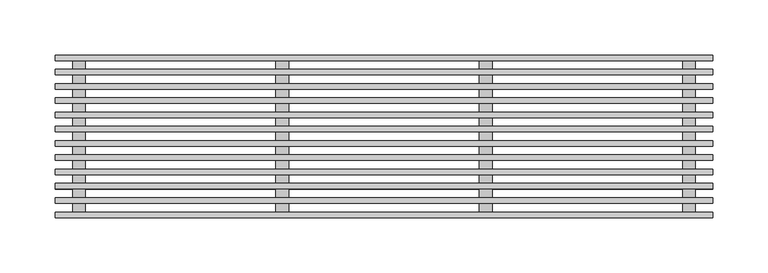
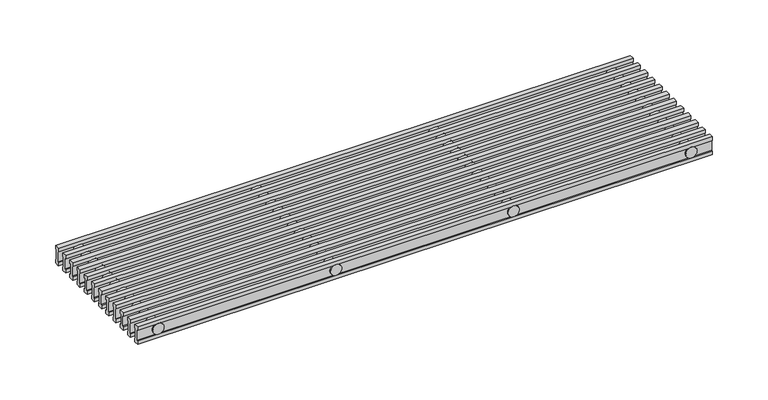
"""IFC4 building model written with IfcOpenShell, lengths in millimetres: proxy geometry, ♦ : РАП_Алюминиевая продольная/ Белый RAL 9016."""

import ifcopenshell
import ifcopenshell.guid

model = None  # the IFC model being written
_history = None  # IfcOwnerHistory: only IFC2X3 demands one
_inside = {}  # id of a spatial element -> (the spatial element, [elements in it])
_under = {}  # id of a project, library or spatial element -> (it, [spatial elements below it])
_declared = {}  # id of a project -> (the project, [libraries it declares])
_typed = {}  # id of a type object -> (the type object, [elements of that type])
_made_of = {}  # id of a material, layer set ... -> (it, [elements and type objects made of it])


def new_model(schema):
    """Start an empty IFC model of exactly this schema.

    Asked for "IFC4X3", IfcOpenShell would pick the latest addendum, in which some entities
    have other attributes; the version numbers below select the first issue.
    IFC2X3 requires an IfcOwnerHistory on every rooted entity: one is made here for all.
    """
    global model, _history
    if schema == "IFC4X3":
        model = ifcopenshell.file(schema_version=(4, 3, 0, 0))
    else:
        model = ifcopenshell.file(schema=schema)
    _inside.clear()
    _under.clear()
    _declared.clear()
    _typed.clear()
    _made_of.clear()
    _history = None
    if model.schema == "IFC2X3":
        org = make("IfcOrganization", Name="unknown")
        user = make(
            "IfcPersonAndOrganization",
            ThePerson=make("IfcPerson", FamilyName="unknown"),
            TheOrganization=org,
        )
        app = make(
            "IfcApplication",
            ApplicationDeveloper=org,
            Version="unknown",
            ApplicationFullName="unknown",
            ApplicationIdentifier="unknown",
        )
        _history = make(
            "IfcOwnerHistory",
            OwningUser=user,
            OwningApplication=app,
            ChangeAction="ADDED",
            CreationDate=0,
        )
    return model


def make(cls, **values):
    """One entity of the class cls with the attributes given. An attribute that is None is left unset."""
    return model.create_entity(
        cls, **{name: value for name, value in values.items() if value is not None}
    )


def rooted(cls, **values):
    """An entity with a GlobalId (a new one), such as an element, a storey or a relation."""
    return make(cls, GlobalId=ifcopenshell.guid.new(), OwnerHistory=_history, **values)


def si_unit(unit_type, name, prefix=None):
    """IfcSIUnit, for example si_unit("LENGTHUNIT", "METRE", prefix="MILLI")."""
    return make("IfcSIUnit", UnitType=unit_type, Prefix=prefix, Name=name)


def assignment(units):
    """IfcUnitAssignment: the units of a project."""
    return None if units is None else make("IfcUnitAssignment", Units=units)


def point(xyz):
    """IfcCartesianPoint."""
    return None if xyz is None else make("IfcCartesianPoint", Coordinates=xyz)


def direction(xyz):
    """IfcDirection."""
    return None if xyz is None else make("IfcDirection", DirectionRatios=xyz)


def frame(location, z_axis=None, x_axis=None):
    """IfcAxis2Placement3D, a coordinate frame: its origin and axes. An axis left out is left unset."""
    return make(
        "IfcAxis2Placement3D",
        Location=point(location),
        Axis=direction(z_axis),
        RefDirection=direction(x_axis),
    )


def frame_2d(location, x_axis=None):
    """IfcAxis2Placement2D, a coordinate frame in the plane: its origin and x axis."""
    return make(
        "IfcAxis2Placement2D", Location=point(location), RefDirection=direction(x_axis)
    )


def origin():
    """The frame at (0, 0, 0) with its axes left unset."""
    return frame((0.0, 0.0, 0.0))


def place(relative_to, where):
    """IfcLocalPlacement: puts the frame where relative to a parent placement (None: the world)."""
    return make(
        "IfcLocalPlacement", PlacementRelTo=relative_to, RelativePlacement=where
    )


def context(
    kind, dimensions, precision=None, world=None, true_north=None, identifier=None
):
    """IfcGeometricRepresentationContext, for example the 3D "Model" context."""
    return make(
        "IfcGeometricRepresentationContext",
        ContextIdentifier=identifier,
        ContextType=kind,
        CoordinateSpaceDimension=dimensions,
        Precision=precision,
        WorldCoordinateSystem=world,
        TrueNorth=true_north,
    )


def project(units=None, contexts=None):
    """IfcProject with its units and contexts."""
    return rooted(
        "IfcProject",
        Name="project",
        RepresentationContexts=contexts,
        UnitsInContext=assignment(units),
    )


def spatial(cls, under=None, at=None, **own):
    """A site, building, storey or space (cls), placed at a placement, below another one or the project."""
    s = rooted(cls, ObjectPlacement=at, **own)
    if under is not None:
        _under.setdefault(under.id(), (under, []))[1].append(s)
    return s


def polyline(points):
    """IfcPolyline through the points."""
    return make("IfcPolyline", Points=[point(p) for p in points])


def circle_curve(where, radius):
    """IfcCircle in the frame where."""
    return make("IfcCircle", Position=where, Radius=radius)


def trimmed(basis, trim1, trim2, sense, master):
    """IfcTrimmedCurve: the piece of a basis curve between two trims."""
    return make(
        "IfcTrimmedCurve",
        BasisCurve=basis,
        Trim1=trim1,
        Trim2=trim2,
        SenseAgreement=sense,
        MasterRepresentation=master,
    )


def segment(curve, same_sense, transition):
    """IfcCompositeCurveSegment."""
    return make(
        "IfcCompositeCurveSegment",
        Transition=transition,
        SameSense=same_sense,
        ParentCurve=curve,
    )


def composite_curve(segments, self_intersect=None):
    """IfcCompositeCurve: segments joined end to end."""
    return make("IfcCompositeCurve", Segments=segments, SelfIntersect=self_intersect)


def outline(outer, holes=None, kind="AREA"):
    """IfcArbitraryClosedProfileDef: a profile drawn as a closed curve; with holes, ...WithVoids."""
    if holes is None:
        return make("IfcArbitraryClosedProfileDef", ProfileType=kind, OuterCurve=outer)
    return make(
        "IfcArbitraryProfileDefWithVoids",
        ProfileType=kind,
        OuterCurve=outer,
        InnerCurves=holes,
    )


def extrude(swept, where, along, depth):
    """IfcExtrudedAreaSolid: the profile swept, set in the frame where, extruded along a direction by depth."""
    return make(
        "IfcExtrudedAreaSolid",
        SweptArea=swept,
        Position=where,
        ExtrudedDirection=direction(along),
        Depth=depth,
    )


def shape(context_of_items, identifier, shape_type, items):
    """IfcShapeRepresentation: the items that make up one representation, for example the "Body"."""
    return make(
        "IfcShapeRepresentation",
        ContextOfItems=context_of_items,
        RepresentationIdentifier=identifier,
        RepresentationType=shape_type,
        Items=items,
    )


def source(mapping_origin, context_of_items, identifier, shape_type, items):
    """IfcRepresentationMap: a shape defined once, which mapped items show again and again."""
    return make(
        "IfcRepresentationMap",
        MappingOrigin=mapping_origin,
        MappedRepresentation=shape(context_of_items, identifier, shape_type, items),
    )


def transform(
    local_origin,
    x_axis=None,
    y_axis=None,
    z_axis=None,
    scale=None,
    scale2=None,
    scale3=None,
    uniform=True,
):
    """IfcCartesianTransformationOperator3D, or its non-uniform kind. x_axis, y_axis, z_axis: its Axis1, 2, 3."""
    if uniform:
        return make(
            "IfcCartesianTransformationOperator3D",
            Axis1=direction(x_axis),
            Axis2=direction(y_axis),
            LocalOrigin=point(local_origin),
            Scale=scale,
            Axis3=direction(z_axis),
        )
    return make(
        "IfcCartesianTransformationOperator3DnonUniform",
        Axis1=direction(x_axis),
        Axis2=direction(y_axis),
        LocalOrigin=point(local_origin),
        Scale=scale,
        Axis3=direction(z_axis),
        Scale2=scale2,
        Scale3=scale3,
    )


def mapped(mapping_source, mapping_target):
    """IfcMappedItem: shows the shape of a source again, moved by a transform."""
    return make(
        "IfcMappedItem", MappingSource=mapping_source, MappingTarget=mapping_target
    )


def made_of(thing, what):
    """Note that an element or type object is made of a material, layer set ...; save() writes the relation."""
    if what is not None:
        _made_of.setdefault(what.id(), (what, []))[1].append(thing)
    return thing


def element(
    cls,
    number,
    at=None,
    inside=None,
    cuts=None,
    type_object=None,
    material=None,
    context=None,
    identifier="Body",
    shape_type=None,
    held_by="IfcProductDefinitionShape",
    body=None,
    shapes=None,
    **own,
):
    """One element of the class cls, such as IfcWall. Its Tag is "e" and its number.

    at: its placement. inside: the storey or other place that contains it. cuts: it is an
    opening in that element (IfcRelVoidsElement). A single representation is given by context,
    identifier, shape_type and body (its items); several are given by shapes. held_by: the class
    of the entity that holds the representations. save() writes the other relations.
    """
    e = rooted(cls, Tag="e%d" % number, ObjectPlacement=at, **own)
    if body is not None:
        shapes = [shape(context, identifier, shape_type, body)]
    if shapes is not None:
        e.Representation = make(held_by, Representations=shapes)
    if inside is not None:
        _inside.setdefault(inside.id(), (inside, []))[1].append(e)
    if cuts is not None:
        rooted(
            "IfcRelVoidsElement", RelatingBuildingElement=cuts, RelatedOpeningElement=e
        )
    if type_object is not None:
        _typed.setdefault(type_object.id(), (type_object, []))[1].append(e)
    return made_of(e, material)


def aggregate(whole, parts):
    """IfcRelAggregates: a whole, such as a stair, and the parts it consists of."""
    return rooted("IfcRelAggregates", RelatingObject=whole, RelatedObjects=parts)


def save(model, path):
    """Write the relations noted so far, then the file.

    IfcRelAggregates (storeys below a building ...), IfcRelContainedInSpatialStructure (elements
    in a storey), IfcRelDefinesByType, IfcRelAssociatesMaterial and IfcRelDeclares: one each for
    every whole, place, type object, material and project.
    """
    for whole, parts in _under.values():
        aggregate(whole, parts)
    for where, things in _inside.values():
        rooted(
            "IfcRelContainedInSpatialStructure",
            RelatedElements=things,
            RelatingStructure=where,
        )
    for kind, things in _typed.values():
        rooted("IfcRelDefinesByType", RelatedObjects=things, RelatingType=kind)
    for what, things in _made_of.values():
        rooted("IfcRelAssociatesMaterial", RelatedObjects=things, RelatingMaterial=what)
    for by, libraries in _declared.values():
        rooted("IfcRelDeclares", RelatingContext=by, RelatedDefinitions=libraries)
    model.write(path)


def mechanical_equipment_2d79d91e(model_context):
    return source(origin(), model_context, "Body", "SweptSolid", [
        extrude(outline(polyline([(-55.8363636, 0.0), (-55.8363636, -3.86), (-57.0863636, -3.86), (-57.0863636, -15.44), (-55.8363636, -15.44), (-55.8363636, -19.3), (-60.8363636, -19.3), (-60.8363636, -15.44), (-59.5863636, -15.44), (-59.5863636, -3.86), (-60.8363636, -3.86), (-60.8363636, 0.0), (-55.8363636, 0.0)])), frame((1.2, 0.0, 0.0), z_axis=(1.0, 0.0, 0.0), x_axis=(0.0, 1.0, 0.0)), (0.0, 0.0, 1.0), 597.6),
        extrude(outline(polyline([(-42.8727273, 0.0), (-42.8727273, -3.86), (-44.1227273, -3.86), (-44.1227273, -15.44), (-42.8727273, -15.44), (-42.8727273, -19.3), (-47.8727273, -19.3), (-47.8727273, -15.44), (-46.6227273, -15.44), (-46.6227273, -3.86), (-47.8727273, -3.86), (-47.8727273, 0.0), (-42.8727273, 0.0)])), frame((1.2, 0.0, 0.0), z_axis=(1.0, 0.0, 0.0), x_axis=(0.0, 1.0, 0.0)), (0.0, 0.0, 1.0), 597.6),
        extrude(outline(polyline([(-29.9090909, 0.0), (-29.9090909, -3.86), (-31.1590909, -3.86), (-31.1590909, -15.44), (-29.9090909, -15.44), (-29.9090909, -19.3), (-34.9090909, -19.3), (-34.9090909, -15.44), (-33.6590909, -15.44), (-33.6590909, -3.86), (-34.9090909, -3.86), (-34.9090909, 0.0), (-29.9090909, 0.0)])), frame((1.2, 0.0, 0.0), z_axis=(1.0, 0.0, 0.0), x_axis=(0.0, 1.0, 0.0)), (0.0, 0.0, 1.0), 597.6),
        extrude(outline(polyline([(-16.9454545, 0.0), (-16.9454545, -3.86), (-18.1954545, -3.86), (-18.1954545, -15.44), (-16.9454545, -15.44), (-16.9454545, -19.3), (-21.9454545, -19.3), (-21.9454545, -15.44), (-20.6954545, -15.44), (-20.6954545, -3.86), (-21.9454545, -3.86), (-21.9454545, 0.0), (-16.9454545, 0.0)])), frame((1.2, 0.0, 0.0), z_axis=(1.0, 0.0, 0.0), x_axis=(0.0, 1.0, 0.0)), (0.0, 0.0, 1.0), 597.6),
        extrude(outline(composite_curve([segment(trimmed(circle_curve(frame_2d((-9.6, 392.3333333)), 5.8), [point((-9.6, 386.5333333))], [point((-9.6, 398.1333333))], False, "CARTESIAN"), True, "CONTINUOUS"), segment(trimmed(circle_curve(frame_2d((-9.6, 392.3333333)), 5.8), [point((-9.6, 398.1333333))], [point((-9.6, 386.5333333))], False, "CARTESIAN"), True, "CONTINUOUS")], self_intersect=False)), frame((0.0, -73.8, 0.0), z_axis=(0.0, 1.0, 0.0), x_axis=(0.0, 0.0, 1.0)), (0.0, 0.0, 1.0), 147.6),
        extrude(outline(composite_curve([segment(trimmed(circle_curve(frame_2d((-9.6, 207.6666667)), 5.8), [point((-9.6, 201.8666667))], [point((-9.6, 213.4666667))], False, "CARTESIAN"), True, "CONTINUOUS"), segment(trimmed(circle_curve(frame_2d((-9.6, 207.6666667)), 5.8), [point((-9.6, 213.4666667))], [point((-9.6, 201.8666667))], False, "CARTESIAN"), True, "CONTINUOUS")], self_intersect=False)), frame((0.0, -73.8, 0.0), z_axis=(0.0, 1.0, 0.0), x_axis=(0.0, 0.0, 1.0)), (0.0, 0.0, 1.0), 147.6),
        extrude(outline(composite_curve([segment(trimmed(circle_curve(frame_2d((-9.6, 577.0)), 5.8), [point((-9.6, 571.2))], [point((-9.6, 582.8))], False, "CARTESIAN"), True, "CONTINUOUS"), segment(trimmed(circle_curve(frame_2d((-9.6, 577.0)), 5.8), [point((-9.6, 582.8))], [point((-9.6, 571.2))], False, "CARTESIAN"), True, "CONTINUOUS")], self_intersect=False)), frame((0.0, -73.8, 0.0), z_axis=(0.0, 1.0, 0.0), x_axis=(0.0, 0.0, 1.0)), (0.0, 0.0, 1.0), 147.6),
        extrude(outline(composite_curve([segment(trimmed(circle_curve(frame_2d((-9.6, 23.0)), 5.8), [point((-9.6, 17.2))], [point((-9.6, 28.8))], False, "CARTESIAN"), True, "CONTINUOUS"), segment(trimmed(circle_curve(frame_2d((-9.6, 23.0)), 5.8), [point((-9.6, 28.8))], [point((-9.6, 17.2))], False, "CARTESIAN"), True, "CONTINUOUS")], self_intersect=False)), frame((0.0, -73.8, 0.0), z_axis=(0.0, 1.0, 0.0), x_axis=(0.0, 0.0, 1.0)), (0.0, 0.0, 1.0), 147.6),
        extrude(outline(polyline([(-3.9818182, 0.0), (-3.9818182, -3.86), (-5.2318182, -3.86), (-5.2318182, -15.44), (-3.9818182, -15.44), (-3.9818182, -19.3), (-8.9818182, -19.3), (-8.9818182, -15.44), (-7.7318182, -15.44), (-7.7318182, -3.86), (-8.9818182, -3.86), (-8.9818182, 0.0), (-3.9818182, 0.0)])), frame((1.2, 0.0, 0.0), z_axis=(1.0, 0.0, 0.0), x_axis=(0.0, 1.0, 0.0)), (0.0, 0.0, 1.0), 597.6),
        extrude(outline(polyline([(8.9818182, 0.0), (8.9818182, -3.86), (7.7318182, -3.86), (7.7318182, -15.44), (8.9818182, -15.44), (8.9818182, -19.3), (3.9818182, -19.3), (3.9818182, -15.44), (5.2318182, -15.44), (5.2318182, -3.86), (3.9818182, -3.86), (3.9818182, 0.0), (8.9818182, 0.0)])), frame((1.2, 0.0, 0.0), z_axis=(1.0, 0.0, 0.0), x_axis=(0.0, 1.0, 0.0)), (0.0, 0.0, 1.0), 597.6),
        extrude(outline(polyline([(21.9454545, 0.0), (21.9454545, -3.86), (20.6954545, -3.86), (20.6954545, -15.44), (21.9454545, -15.44), (21.9454545, -19.3), (16.9454545, -19.3), (16.9454545, -15.44), (18.1954545, -15.44), (18.1954545, -3.86), (16.9454545, -3.86), (16.9454545, 0.0), (21.9454545, 0.0)])), frame((1.2, 0.0, 0.0), z_axis=(1.0, 0.0, 0.0), x_axis=(0.0, 1.0, 0.0)), (0.0, 0.0, 1.0), 597.6),
        extrude(outline(polyline([(34.9090909, 0.0), (34.9090909, -3.86), (33.6590909, -3.86), (33.6590909, -15.44), (34.9090909, -15.44), (34.9090909, -19.3), (29.9090909, -19.3), (29.9090909, -15.44), (31.1590909, -15.44), (31.1590909, -3.86), (29.9090909, -3.86), (29.9090909, 0.0), (34.9090909, 0.0)])), frame((1.2, 0.0, 0.0), z_axis=(1.0, 0.0, 0.0), x_axis=(0.0, 1.0, 0.0)), (0.0, 0.0, 1.0), 597.6),
        extrude(outline(polyline([(47.8727273, 0.0), (47.8727273, -3.86), (46.6227273, -3.86), (46.6227273, -15.44), (47.8727273, -15.44), (47.8727273, -19.3), (42.8727273, -19.3), (42.8727273, -15.44), (44.1227273, -15.44), (44.1227273, -3.86), (42.8727273, -3.86), (42.8727273, 0.0), (47.8727273, 0.0)])), frame((1.2, 0.0, 0.0), z_axis=(1.0, 0.0, 0.0), x_axis=(0.0, 1.0, 0.0)), (0.0, 0.0, 1.0), 597.6),
        extrude(outline(polyline([(60.8363636, 0.0), (60.8363636, -3.86), (59.5863636, -3.86), (59.5863636, -15.44), (60.8363636, -15.44), (60.8363636, -19.3), (55.8363636, -19.3), (55.8363636, -15.44), (57.0863636, -15.44), (57.0863636, -3.86), (55.8363636, -3.86), (55.8363636, 0.0), (60.8363636, 0.0)])), frame((1.2, 0.0, 0.0), z_axis=(1.0, 0.0, 0.0), x_axis=(0.0, 1.0, 0.0)), (0.0, 0.0, 1.0), 597.6),
        extrude(outline(polyline([(-68.8, 0.0), (-68.8, -3.86), (-70.05, -3.86), (-70.05, -15.44), (-68.8, -15.44), (-68.8, -19.3), (-73.8, -19.3), (-73.8, -15.44), (-72.55, -15.44), (-72.55, -3.86), (-73.8, -3.86), (-73.8, 0.0), (-68.8, 0.0)])), frame((1.2, 0.0, 0.0), z_axis=(1.0, 0.0, 0.0), x_axis=(0.0, 1.0, 0.0)), (0.0, 0.0, 1.0), 597.6),
        extrude(outline(polyline([(73.8, 0.0), (73.8, -3.86), (72.55, -3.86), (72.55, -15.44), (73.8, -15.44), (73.8, -19.3), (68.8, -19.3), (68.8, -15.44), (70.05, -15.44), (70.05, -3.86), (68.8, -3.86), (68.8, 0.0), (73.8, 0.0)])), frame((1.2, 0.0, 0.0), z_axis=(1.0, 0.0, 0.0), x_axis=(0.0, 1.0, 0.0)), (0.0, 0.0, 1.0), 597.6),
    ])


if __name__ == "__main__":
    model = new_model("IFC4")
    model_context = context("Model", 3, world=origin())
    ifc_project = project(units=[si_unit("LENGTHUNIT", "METRE", prefix="MILLI")], contexts=[model_context])
    site = spatial("IfcSite", under=ifc_project)
    building = spatial("IfcBuilding", under=site)
    placement = place(None, origin())
    mechanical_equipment_shape = mechanical_equipment_2d79d91e(model_context)
    element("IfcBuildingElementProxy", 1, Name="♦ : РАП_Алюминиевая продольная/ Белый RAL 9016", ObjectType="♦ : РАП_Алюминиевая продольная/ Белый RAL 9016", at=placement, inside=building, context=model_context, shape_type="MappedRepresentation", body=[
        mapped(mechanical_equipment_shape, transform((0.0, 0.0, 0.0), x_axis=(1.0, 0.0, 0.0), y_axis=(0.0, 1.0, 0.0), z_axis=(0.0, 0.0, 1.0))),
    ])
    save(model, "model.ifc")
